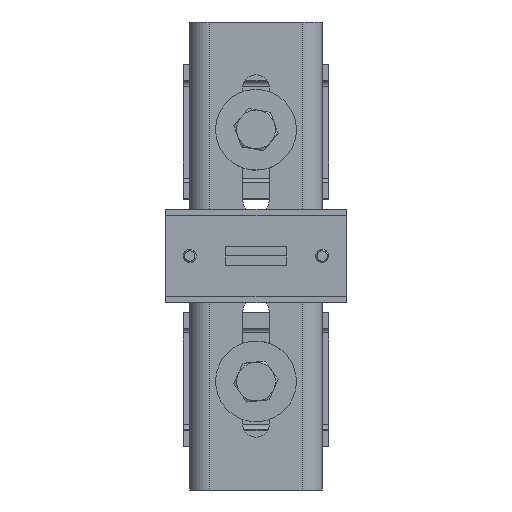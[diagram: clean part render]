
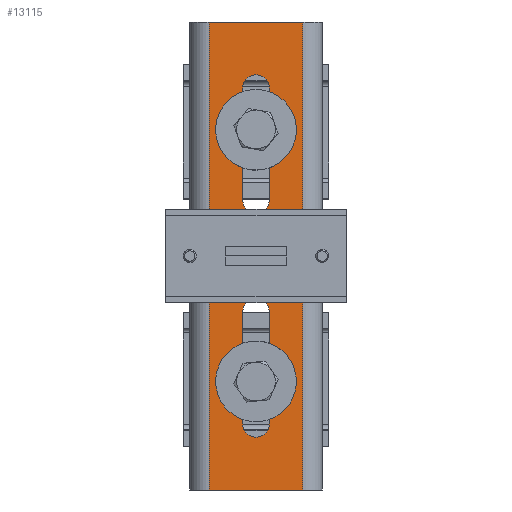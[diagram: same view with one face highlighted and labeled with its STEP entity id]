
A CAD part, front view. The second image highlights one B-rep face of the part: STEP entity #13115.
In plain terms, the highlighted planar face has unit normal (0, -1, 0).
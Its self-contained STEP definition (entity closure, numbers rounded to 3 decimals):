
#74 = CIRCLE ( 'NONE', #10207, 8.25 ) ;
#384 = CIRCLE ( 'NONE', #10507, 12. ) ;
#581 = CIRCLE ( 'NONE', #10117, 8.25 ) ;
#857 = DIRECTION ( 'NONE',  ( 1., 0., 0. ) ) ;
#859 = DIRECTION ( 'NONE',  ( 0., -1., 0. ) ) ;
#860 = CARTESIAN_POINT ( 'NONE',  ( 0., -19.92, 20.986 ) ) ;
#871 = CARTESIAN_POINT ( 'NONE',  ( -8.25, -19.92, 250. ) ) ;
#875 = DIRECTION ( 'NONE',  ( 0., 0., 1. ) ) ;
#876 = DIRECTION ( 'NONE',  ( 0., -1., 0. ) ) ;
#879 = CARTESIAN_POINT ( 'NONE',  ( 0., -19.92, 90. ) ) ;
#887 = CARTESIAN_POINT ( 'NONE',  ( 8.25, -19.92, 250. ) ) ;
#889 = DIRECTION ( 'NONE',  ( 0., 0., -1. ) ) ;
#928 = DIRECTION ( 'NONE',  ( 0., 0., 1. ) ) ;
#929 = DIRECTION ( 'NONE',  ( 0., -1., 0. ) ) ;
#936 = CARTESIAN_POINT ( 'NONE',  ( 0., -19.92, 160. ) ) ;
#957 = DIRECTION ( 'NONE',  ( 0., 0., 1. ) ) ;
#963 = CARTESIAN_POINT ( 'NONE',  ( 8.25, -19.92, 250. ) ) ;
#976 = DIRECTION ( 'NONE',  ( 0., 0., 1. ) ) ;
#2423 = CARTESIAN_POINT ( 'NONE',  ( 0., -19.92, 125. ) ) ;
#2424 = DIRECTION ( 'NONE',  ( 0., -1., 0. ) ) ;
#2426 = DIRECTION ( 'NONE',  ( -1., 0., 0. ) ) ;
#6050 = LINE ( 'NONE', #963, #6054 ) ;
#6054 = VECTOR ( 'NONE', #957, 1000. ) ;
#6253 = FACE_OUTER_BOUND ( 'NONE', #6985, .T. ) ;
#6337 = FACE_BOUND ( 'NONE', #6990, .T. ) ;
#6342 = FACE_BOUND ( 'NONE', #6987, .T. ) ;
#6344 = FACE_BOUND ( 'NONE', #6983, .T. ) ;
#6983 = EDGE_LOOP ( 'NONE', ( #7589, #7588, #7587, #7586 ) ) ;
#6985 = EDGE_LOOP ( 'NONE', ( #7583, #7582, #7581, #7580 ) ) ;
#6987 = EDGE_LOOP ( 'NONE', ( #7594, #7593, #7592, #7591, #7590 ) ) ;
#6990 = EDGE_LOOP ( 'NONE', ( #7585, #7584 ) ) ;
#7580 = ORIENTED_EDGE ( 'NONE', *, *, #11271, .F. ) ;
#7581 = ORIENTED_EDGE ( 'NONE', *, *, #11388, .F. ) ;
#7582 = ORIENTED_EDGE ( 'NONE', *, *, #11390, .F. ) ;
#7583 = ORIENTED_EDGE ( 'NONE', *, *, #11270, .F. ) ;
#7584 = ORIENTED_EDGE ( 'NONE', *, *, #11269, .F. ) ;
#7585 = ORIENTED_EDGE ( 'NONE', *, *, #10834, .F. ) ;
#7586 = ORIENTED_EDGE ( 'NONE', *, *, #11069, .F. ) ;
#7587 = ORIENTED_EDGE ( 'NONE', *, *, #11266, .F. ) ;
#7588 = ORIENTED_EDGE ( 'NONE', *, *, #11268, .F. ) ;
#7589 = ORIENTED_EDGE ( 'NONE', *, *, #11072, .F. ) ;
#7590 = ORIENTED_EDGE ( 'NONE', *, *, #10578, .F. ) ;
#7591 = ORIENTED_EDGE ( 'NONE', *, *, #11076, .F. ) ;
#7592 = ORIENTED_EDGE ( 'NONE', *, *, #11080, .F. ) ;
#7593 = ORIENTED_EDGE ( 'NONE', *, *, #11079, .F. ) ;
#7594 = ORIENTED_EDGE ( 'NONE', *, *, #11077, .F. ) ;
#9158 = VERTEX_POINT ( 'NONE', #18954 ) ;
#9159 = VERTEX_POINT ( 'NONE', #18955 ) ;
#9160 = VERTEX_POINT ( 'NONE', #18956 ) ;
#9161 = VERTEX_POINT ( 'NONE', #18958 ) ;
#9163 = VERTEX_POINT ( 'NONE', #18960 ) ;
#9165 = VERTEX_POINT ( 'NONE', #18962 ) ;
#9166 = VERTEX_POINT ( 'NONE', #18963 ) ;
#9175 = VERTEX_POINT ( 'NONE', #18972 ) ;
#9178 = VERTEX_POINT ( 'NONE', #18976 ) ;
#9181 = VERTEX_POINT ( 'NONE', #18977 ) ;
#9183 = VERTEX_POINT ( 'NONE', #18982 ) ;
#9211 = VERTEX_POINT ( 'NONE', #19030 ) ;
#9212 = VERTEX_POINT ( 'NONE', #19031 ) ;
#9219 = VERTEX_POINT ( 'NONE', #18687 ) ;
#9226 = VERTEX_POINT ( 'NONE', #18715 ) ;
#10117 = AXIS2_PLACEMENT_3D ( 'NONE', #17789, #17786, #17784 ) ;
#10204 = AXIS2_PLACEMENT_3D ( 'NONE', #860, #859, #857 ) ;
#10205 = AXIS2_PLACEMENT_3D ( 'NONE', #879, #876, #875 ) ;
#10207 = AXIS2_PLACEMENT_3D ( 'NONE', #936, #929, #928 ) ;
#10340 = AXIS2_PLACEMENT_3D ( 'NONE', #12035, #12036, #12037 ) ;
#10341 = AXIS2_PLACEMENT_3D ( 'NONE', #12041, #12042, #12043 ) ;
#10507 = AXIS2_PLACEMENT_3D ( 'NONE', #2423, #2424, #2426 ) ;
#10578 = EDGE_CURVE ( 'NONE', #9219, #9226, #581, .T. ) ;
#10834 = EDGE_CURVE ( 'NONE', #9211, #9212, #384, .T. ) ;
#11069 = EDGE_CURVE ( 'NONE', #9165, #9181, #6050, .T. ) ;
#11072 = EDGE_CURVE ( 'NONE', #9159, #9165, #74, .T. ) ;
#11076 = EDGE_CURVE ( 'NONE', #9226, #9158, #11915, .T. ) ;
#11077 = EDGE_CURVE ( 'NONE', #9163, #9219, #16732, .T. ) ;
#11079 = EDGE_CURVE ( 'NONE', #9178, #9163, #16682, .T. ) ;
#11080 = EDGE_CURVE ( 'NONE', #9158, #9178, #16697, .T. ) ;
#11266 = EDGE_CURVE ( 'NONE', #9181, #9161, #16914, .T. ) ;
#11268 = EDGE_CURVE ( 'NONE', #9161, #9159, #16906, .T. ) ;
#11269 = EDGE_CURVE ( 'NONE', #9212, #9211, #16904, .T. ) ;
#11270 = EDGE_CURVE ( 'NONE', #9160, #9175, #16902, .T. ) ;
#11271 = EDGE_CURVE ( 'NONE', #9175, #9166, #16909, .T. ) ;
#11388 = EDGE_CURVE ( 'NONE', #9166, #9183, #16692, .T. ) ;
#11390 = EDGE_CURVE ( 'NONE', #9183, #9160, #16663, .T. ) ;
#11915 = CIRCLE ( 'NONE', #10205, 8.25 ) ;
#12033 = CARTESIAN_POINT ( 'NONE',  ( 29., -19.92, 250. ) ) ;
#12034 = DIRECTION ( 'NONE',  ( 0., 0., -1. ) ) ;
#12035 = CARTESIAN_POINT ( 'NONE',  ( 0., -19.92, 229.014 ) ) ;
#12036 = DIRECTION ( 'NONE',  ( 0., -1., 0. ) ) ;
#12037 = DIRECTION ( 'NONE',  ( 1., 0., 0. ) ) ;
#12038 = CARTESIAN_POINT ( 'NONE',  ( -8.25, -19.92, 250. ) ) ;
#12039 = DIRECTION ( 'NONE',  ( 0., 0., -1. ) ) ;
#12040 = CARTESIAN_POINT ( 'NONE',  ( -35., -19.92, -20. ) ) ;
#12041 = CARTESIAN_POINT ( 'NONE',  ( 0., -19.92, 125. ) ) ;
#12042 = DIRECTION ( 'NONE',  ( 0., -1., 0. ) ) ;
#12043 = DIRECTION ( 'NONE',  ( -1., 0., 0. ) ) ;
#12044 = DIRECTION ( 'NONE',  ( -1., 0., 0. ) ) ;
#12466 = CARTESIAN_POINT ( 'NONE',  ( -35., -19.92, 270. ) ) ;
#12467 = DIRECTION ( 'NONE',  ( 1., 0., 0. ) ) ;
#12520 = CARTESIAN_POINT ( 'NONE',  ( -29., -19.92, 250. ) ) ;
#12521 = DIRECTION ( 'NONE',  ( 0., 0., 1. ) ) ;
#13115 = ADVANCED_FACE ( 'NONE', ( #6342, #6344, #6337, #6253 ), #15416, .F. ) ;
#14609 = AXIS2_PLACEMENT_3D ( 'NONE', #15418, #15415, #15420 ) ;
#15415 = DIRECTION ( 'NONE',  ( 0., 1., 0. ) ) ;
#15416 = PLANE ( 'NONE',  #14609 ) ;
#15418 = CARTESIAN_POINT ( 'NONE',  ( -35., -19.92, 250. ) ) ;
#15420 = DIRECTION ( 'NONE',  ( -1., 0., 0. ) ) ;
#16660 = VECTOR ( 'NONE', #12467, 1000. ) ;
#16663 = LINE ( 'NONE', #12466, #16660 ) ;
#16665 = VECTOR ( 'NONE', #889, 1000. ) ;
#16676 = VECTOR ( 'NONE', #12521, 1000. ) ;
#16682 = CIRCLE ( 'NONE', #10204, 8.25 ) ;
#16692 = LINE ( 'NONE', #12520, #16676 ) ;
#16697 = LINE ( 'NONE', #871, #16665 ) ;
#16714 = VECTOR ( 'NONE', #976, 1000. ) ;
#16732 = LINE ( 'NONE', #887, #16714 ) ;
#16898 = VECTOR ( 'NONE', #12044, 1000. ) ;
#16900 = VECTOR ( 'NONE', #12034, 1000. ) ;
#16902 = LINE ( 'NONE', #12033, #16900 ) ;
#16903 = VECTOR ( 'NONE', #12039, 1000. ) ;
#16904 = CIRCLE ( 'NONE', #10341, 12. ) ;
#16906 = LINE ( 'NONE', #12038, #16903 ) ;
#16909 = LINE ( 'NONE', #12040, #16898 ) ;
#16914 = CIRCLE ( 'NONE', #10340, 8.25 ) ;
#17784 = DIRECTION ( 'NONE',  ( 0., 0., 1. ) ) ;
#17786 = DIRECTION ( 'NONE',  ( 0., -1., 0. ) ) ;
#17789 = CARTESIAN_POINT ( 'NONE',  ( 0., -19.92, 90. ) ) ;
#18687 = CARTESIAN_POINT ( 'NONE',  ( 8.25, -19.92, 90. ) ) ;
#18715 = CARTESIAN_POINT ( 'NONE',  ( 0., -19.92, 98.25 ) ) ;
#18954 = CARTESIAN_POINT ( 'NONE',  ( -8.25, -19.92, 90. ) ) ;
#18955 = CARTESIAN_POINT ( 'NONE',  ( -8.25, -19.92, 160. ) ) ;
#18956 = CARTESIAN_POINT ( 'NONE',  ( 29., -19.92, 270. ) ) ;
#18958 = CARTESIAN_POINT ( 'NONE',  ( -8.25, -19.92, 229.014 ) ) ;
#18960 = CARTESIAN_POINT ( 'NONE',  ( 8.25, -19.92, 20.986 ) ) ;
#18962 = CARTESIAN_POINT ( 'NONE',  ( 8.25, -19.92, 160. ) ) ;
#18963 = CARTESIAN_POINT ( 'NONE',  ( -29., -19.92, -20. ) ) ;
#18972 = CARTESIAN_POINT ( 'NONE',  ( 29., -19.92, -20. ) ) ;
#18976 = CARTESIAN_POINT ( 'NONE',  ( -8.25, -19.92, 20.986 ) ) ;
#18977 = CARTESIAN_POINT ( 'NONE',  ( 8.25, -19.92, 229.014 ) ) ;
#18982 = CARTESIAN_POINT ( 'NONE',  ( -29., -19.92, 270. ) ) ;
#19030 = CARTESIAN_POINT ( 'NONE',  ( -12., -19.92, 125. ) ) ;
#19031 = CARTESIAN_POINT ( 'NONE',  ( 12., -19.92, 125. ) ) ;
